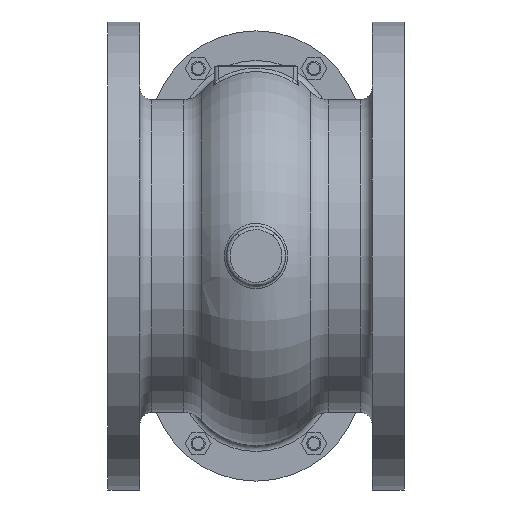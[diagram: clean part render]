
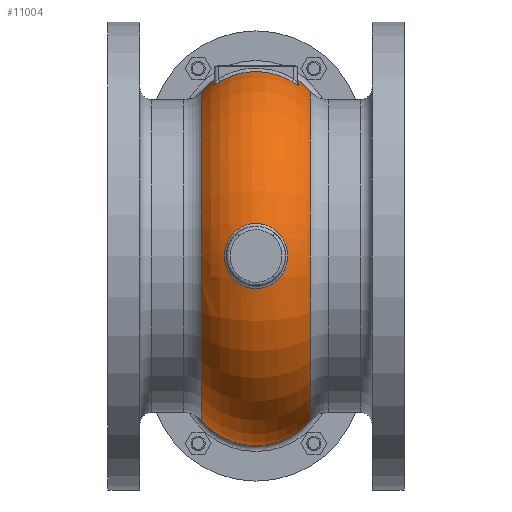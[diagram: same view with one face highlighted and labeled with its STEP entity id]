
A CAD part, front view. The second image highlights one B-rep face of the part: STEP entity #11004.
In plain terms, the highlighted toroidal (fillet/blend) face has major radius 100 mm and minor radius 60 mm.
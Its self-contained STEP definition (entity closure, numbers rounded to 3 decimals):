
#106=FACE_BOUND('',#3981,.T.);
#2492=B_SPLINE_CURVE_WITH_KNOTS('',3,(#14442,#14443,#14444,#14445,#14446,
#14447),.UNSPECIFIED.,.F.,.F.,(4,1,1,4),(0.,0.432,0.72,
1.008),.UNSPECIFIED.);
#2493=B_SPLINE_CURVE_WITH_KNOTS('',3,(#14486,#14487,#14488,#14489,#14490,
#14491,#14492),.UNSPECIFIED.,.F.,.F.,(4,1,1,1,4),(-6.731,-4.808,
-2.885,-1.442,0.),.UNSPECIFIED.);
#2496=B_SPLINE_CURVE_WITH_KNOTS('',3,(#14539,#14540,#14541,#14542,#14543,
#14544),.UNSPECIFIED.,.F.,.F.,(4,1,1,4),(0.,0.288,0.576,
1.008),.UNSPECIFIED.);
#2737=B_SPLINE_CURVE_WITH_KNOTS('',3,(#20166,#20167,#20168,#20169,#20170,
#20171,#20172,#20173,#20174,#20175,#20176,#20177,#20178,#20179,#20180,#20181,
#20182,#20183,#20184,#20185),.UNSPECIFIED.,.T.,.F.,(4,1,1,1,1,1,1,1,1,1,
1,1,1,1,1,1,1,4),(0.,0.565,1.13,2.26,
3.013,3.767,4.52,6.027,6.78,
7.534,8.287,9.04,9.794,11.3,
12.43,13.56,14.69,15.82),
 .UNSPECIFIED.);
#3350=FACE_OUTER_BOUND('',#3980,.T.);
#3980=EDGE_LOOP('',(#9424,#9425,#9426,#9427,#9428,#9429,#9430,#9431,#9432,
#9433));
#3981=EDGE_LOOP('',(#9434));
#4152=CIRCLE('',#11113,147.857);
#4158=CIRCLE('',#11120,147.857);
#4167=CIRCLE('',#11137,60.);
#4169=CIRCLE('',#11139,60.);
#4330=CIRCLE('',#11694,139.);
#4331=CIRCLE('',#11695,60.);
#4332=CIRCLE('',#11696,139.);
#4443=VERTEX_POINT('',#14393);
#4445=VERTEX_POINT('',#14399);
#4447=VERTEX_POINT('',#14440);
#4449=VERTEX_POINT('',#14484);
#4451=VERTEX_POINT('',#14537);
#4453=VERTEX_POINT('',#14547);
#4466=VERTEX_POINT('',#14728);
#4471=VERTEX_POINT('',#14745);
#5310=VERTEX_POINT('',#20164);
#5311=VERTEX_POINT('',#20187);
#5312=VERTEX_POINT('',#20189);
#5432=EDGE_CURVE('',#4445,#4443,#4152,.T.);
#5436=EDGE_CURVE('',#4447,#4445,#2492,.T.);
#5438=EDGE_CURVE('',#4449,#4447,#2493,.T.);
#5442=EDGE_CURVE('',#4451,#4449,#2496,.T.);
#5444=EDGE_CURVE('',#4453,#4451,#4158,.T.);
#5469=EDGE_CURVE('',#4443,#4466,#4167,.T.);
#5475=EDGE_CURVE('',#4471,#4453,#4169,.T.);
#6738=EDGE_CURVE('',#5310,#5310,#2737,.T.);
#6739=EDGE_CURVE('',#5311,#4471,#4330,.T.);
#6740=EDGE_CURVE('',#5312,#5311,#4331,.T.);
#6741=EDGE_CURVE('',#4466,#5312,#4332,.T.);
#9424=ORIENTED_EDGE('',*,*,#5444,.F.);
#9425=ORIENTED_EDGE('',*,*,#5475,.F.);
#9426=ORIENTED_EDGE('',*,*,#6739,.F.);
#9427=ORIENTED_EDGE('',*,*,#6740,.F.);
#9428=ORIENTED_EDGE('',*,*,#6741,.F.);
#9429=ORIENTED_EDGE('',*,*,#5469,.F.);
#9430=ORIENTED_EDGE('',*,*,#5432,.F.);
#9431=ORIENTED_EDGE('',*,*,#5436,.F.);
#9432=ORIENTED_EDGE('',*,*,#5438,.F.);
#9433=ORIENTED_EDGE('',*,*,#5442,.F.);
#9434=ORIENTED_EDGE('',*,*,#6738,.F.);
#9920=TOROIDAL_SURFACE('',#11693,100.,60.);
#11004=ADVANCED_FACE('',(#3350,#106),#9920,.T.);
#11113=AXIS2_PLACEMENT_3D('',#14401,#11893,#11894);
#11120=AXIS2_PLACEMENT_3D('',#14549,#11907,#11908);
#11137=AXIS2_PLACEMENT_3D('',#14729,#11953,#11954);
#11139=AXIS2_PLACEMENT_3D('',#14754,#11959,#11960);
#11693=AXIS2_PLACEMENT_3D('',#20186,#13920,#13921);
#11694=AXIS2_PLACEMENT_3D('',#20188,#13922,#13923);
#11695=AXIS2_PLACEMENT_3D('',#20190,#13924,#13925);
#11696=AXIS2_PLACEMENT_3D('',#20191,#13926,#13927);
#11893=DIRECTION('center_axis',(-1.,0.,0.));
#11894=DIRECTION('ref_axis',(0.,-0.108,0.994));
#11907=DIRECTION('center_axis',(1.,0.,0.));
#11908=DIRECTION('ref_axis',(0.,-0.108,0.994));
#11953=DIRECTION('center_axis',(0.,1.,0.));
#11954=DIRECTION('ref_axis',(-1.,0.,0.));
#11959=DIRECTION('center_axis',(0.,1.,0.));
#11960=DIRECTION('ref_axis',(-1.,0.,0.));
#13920=DIRECTION('center_axis',(1.,0.,0.));
#13921=DIRECTION('ref_axis',(0.,0.,-1.));
#13922=DIRECTION('center_axis',(-1.,0.,0.));
#13923=DIRECTION('ref_axis',(0.,-1.,0.));
#13924=DIRECTION('center_axis',(0.,1.,0.));
#13925=DIRECTION('ref_axis',(1.,0.,0.));
#13926=DIRECTION('center_axis',(1.,0.,0.));
#13927=DIRECTION('ref_axis',(0.,-1.,0.));
#14393=CARTESIAN_POINT('',(-150.094,-32.17,147.857));
#14399=CARTESIAN_POINT('',(-150.094,-63.66,144.464));
#14401=CARTESIAN_POINT('Origin',(-150.094,-32.17,0.));
#14440=CARTESIAN_POINT('',(-155.809,-69.533,147.01));
#14442=CARTESIAN_POINT('Ctrl Pts',(-155.809,-69.533,
147.01));
#14443=CARTESIAN_POINT('Ctrl Pts',(-154.638,-69.539,
146.296));
#14444=CARTESIAN_POINT('Ctrl Pts',(-152.648,-68.935,
145.138));
#14445=CARTESIAN_POINT('Ctrl Pts',(-150.548,-66.502,144.18));
#14446=CARTESIAN_POINT('Ctrl Pts',(-150.094,-64.583,
144.263));
#14447=CARTESIAN_POINT('Ctrl Pts',(-150.094,-63.66,
144.464));
#14484=CARTESIAN_POINT('',(-216.761,-69.533,147.01));
#14486=CARTESIAN_POINT('Ctrl Pts',(-216.761,-69.533,
147.01));
#14487=CARTESIAN_POINT('Ctrl Pts',(-211.545,-69.509,
150.19));
#14488=CARTESIAN_POINT('Ctrl Pts',(-200.122,-69.475,
154.921));
#14489=CARTESIAN_POINT('Ctrl Pts',(-183.175,-69.466,
156.254));
#14490=CARTESIAN_POINT('Ctrl Pts',(-168.101,-69.487,
153.25));
#14491=CARTESIAN_POINT('Ctrl Pts',(-159.721,-69.515,
149.395));
#14492=CARTESIAN_POINT('Ctrl Pts',(-155.809,-69.533,
147.01));
#14537=CARTESIAN_POINT('',(-222.475,-63.66,144.464));
#14539=CARTESIAN_POINT('Ctrl Pts',(-222.475,-63.66,
144.464));
#14540=CARTESIAN_POINT('Ctrl Pts',(-222.475,-64.583,
144.263));
#14541=CARTESIAN_POINT('Ctrl Pts',(-222.022,-66.502,144.18));
#14542=CARTESIAN_POINT('Ctrl Pts',(-219.922,-68.935,
145.138));
#14543=CARTESIAN_POINT('Ctrl Pts',(-217.932,-69.539,
146.296));
#14544=CARTESIAN_POINT('Ctrl Pts',(-216.761,-69.533,
147.01));
#14547=CARTESIAN_POINT('',(-222.475,-32.17,147.857));
#14549=CARTESIAN_POINT('Origin',(-222.475,-32.17,0.));
#14728=CARTESIAN_POINT('',(-140.689,-32.17,139.));
#14729=CARTESIAN_POINT('Origin',(-186.285,-32.17,100.));
#14745=CARTESIAN_POINT('',(-231.881,-32.17,139.));
#14754=CARTESIAN_POINT('Origin',(-186.285,-32.17,100.));
#20164=CARTESIAN_POINT('',(-159.618,-185.918,0.));
#20166=CARTESIAN_POINT('Ctrl Pts',(-159.618,-185.918,
0.));
#20167=CARTESIAN_POINT('Ctrl Pts',(-159.618,-185.918,
2.07));
#20168=CARTESIAN_POINT('Ctrl Pts',(-160.074,-186.062,
6.208));
#20169=CARTESIAN_POINT('Ctrl Pts',(-162.739,-186.852,
14.03));
#20170=CARTESIAN_POINT('Ctrl Pts',(-168.227,-188.209,21.11));
#20171=CARTESIAN_POINT('Ctrl Pts',(-176.353,-189.388,25.957));
#20172=CARTESIAN_POINT('Ctrl Pts',(-184.244,-189.88,
27.821));
#20173=CARTESIAN_POINT('Ctrl Pts',(-195.06,-189.668,26.997));
#20174=CARTESIAN_POINT('Ctrl Pts',(-204.624,-188.168,
21.266));
#20175=CARTESIAN_POINT('Ctrl Pts',(-210.649,-186.621,
12.154));
#20176=CARTESIAN_POINT('Ctrl Pts',(-213.051,-185.89,
4.193));
#20177=CARTESIAN_POINT('Ctrl Pts',(-213.053,-185.888,
-4.194));
#20178=CARTESIAN_POINT('Ctrl Pts',(-210.647,-186.62,
-12.154));
#20179=CARTESIAN_POINT('Ctrl Pts',(-204.63,-188.17,-21.268));
#20180=CARTESIAN_POINT('Ctrl Pts',(-193.86,-189.857,
-27.717));
#20181=CARTESIAN_POINT('Ctrl Pts',(-180.092,-189.844,
-27.707));
#20182=CARTESIAN_POINT('Ctrl Pts',(-169.071,-188.427,
-22.202));
#20183=CARTESIAN_POINT('Ctrl Pts',(-161.468,-186.529,
-12.398));
#20184=CARTESIAN_POINT('Ctrl Pts',(-159.618,-185.918,
-4.139));
#20185=CARTESIAN_POINT('Ctrl Pts',(-159.618,-185.918,
0.));
#20186=CARTESIAN_POINT('Origin',(-186.285,-32.17,0.));
#20187=CARTESIAN_POINT('',(-231.881,-32.17,-139.));
#20188=CARTESIAN_POINT('Origin',(-231.881,-32.17,0.));
#20189=CARTESIAN_POINT('',(-140.689,-32.17,-139.));
#20190=CARTESIAN_POINT('Origin',(-186.285,-32.17,-100.));
#20191=CARTESIAN_POINT('Origin',(-140.689,-32.17,0.));
